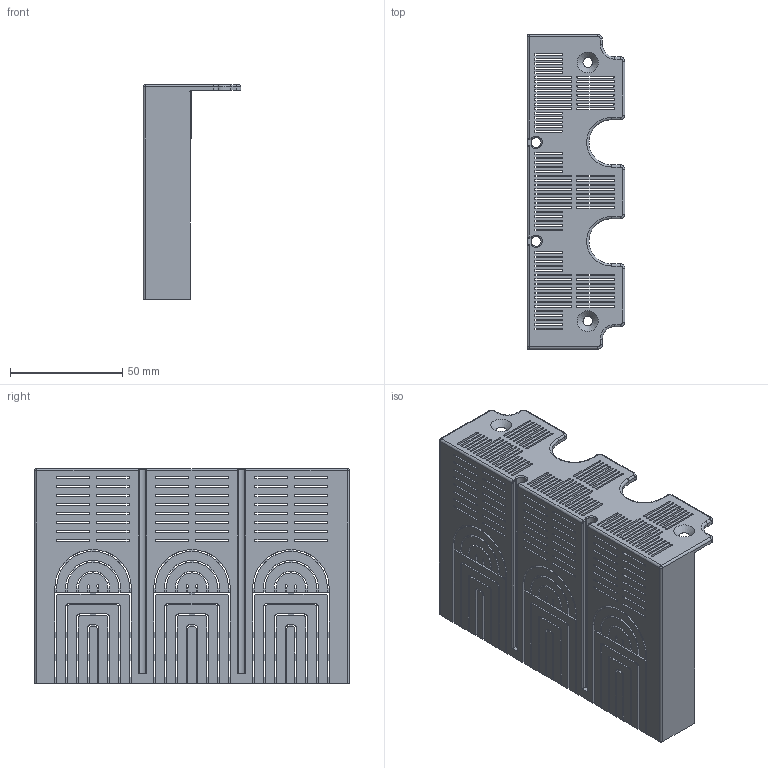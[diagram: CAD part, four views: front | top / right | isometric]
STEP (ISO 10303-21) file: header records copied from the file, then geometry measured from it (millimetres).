
FILE_DESCRIPTION(/* description */ (''),/* implementation_level */ '2;1');
FILE_NAME(/* name */ 'CK8.749.388_d_1-端子盖.stp',/* time_stamp */ '2023-04-04T10:31:15+08:00',/* author */ (''),/* organization */ (''),/* preprocessor_version */ 'ST-DEVELOPER v16.7',/* originating_system */ 'SIEMENS PLM Software NX 12.0',/* authorisation */ '');
FILE_SCHEMA (('AUTOMOTIVE_DESIGN { 1 0 10303 214 3 1 1 1 }'));
Length unit declared in the file: millimetre
Products named in the file (1): CK8.749.388_d_1-端子盖
Bounding box: 43.5 x 140 x 95.5 mm (x, y, z)
Volume: 54842.2 mm3; surface area: 64683.9 mm2
Topology: 1 solids, 1 shells, 1225 faces, 3910 edges, 2567 vertices
Faces by surface type: plane 802, cylinder 391, bspline 16, torus 10, sphere 4, cone 2
Entity records: 44323 total; most frequent: CARTESIAN_POINT 8155, ORIENTED_EDGE 7804, DIRECTION 7237, EDGE_CURVE 3902, LINE 2959, VECTOR 2959, VERTEX_POINT 2565, AXIS2_PLACEMENT_3D 2139
